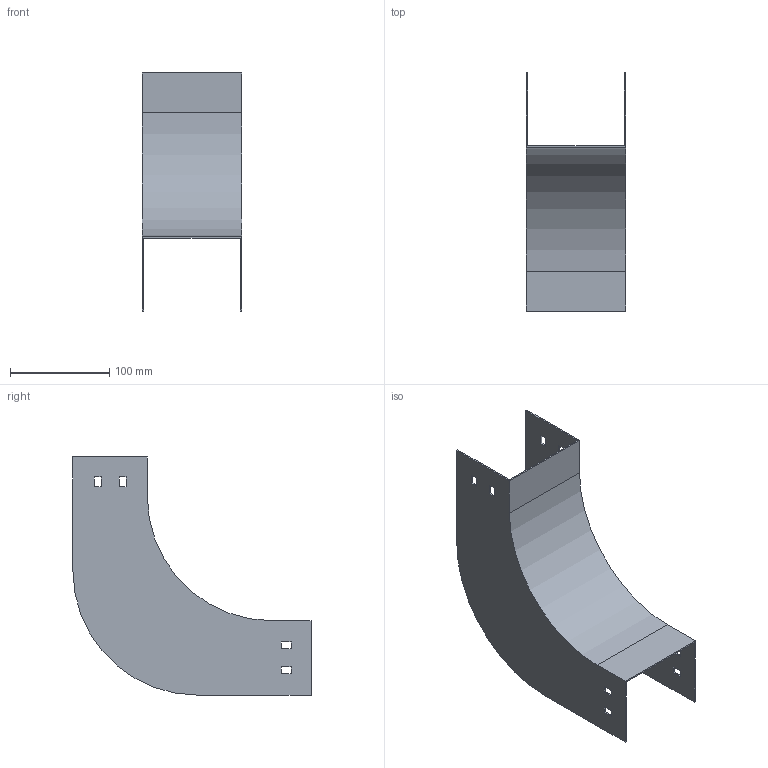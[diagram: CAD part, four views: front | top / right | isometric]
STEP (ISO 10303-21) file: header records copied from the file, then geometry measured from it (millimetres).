
FILE_DESCRIPTION (( 'STEP AP214' ), '1' );
FILE_NAME ('D9_107.step', '2025-07-16T09:08:19', ( '' ), ( '' ), 'SwSTEP 2.0', 'SolidWorks 2023', '' );
FILE_SCHEMA (( 'AUTOMOTIVE_DESIGN' ));
Length unit declared in the file: millimetre
Products named in the file (1): D9_107
Bounding box: 100 x 240 x 240 mm (x, y, z)
Volume: 130665.3 mm3; surface area: 176644.9 mm2
Topology: 1 solids, 1 shells, 50 faces, 144 edges, 96 vertices
Faces by surface type: plane 46, cylinder 4
Entity records: 1671 total; most frequent: CARTESIAN_POINT 291, ORIENTED_EDGE 288, DIRECTION 254, EDGE_CURVE 144, VECTOR 136, LINE 136, VERTEX_POINT 96, EDGE_LOOP 66
